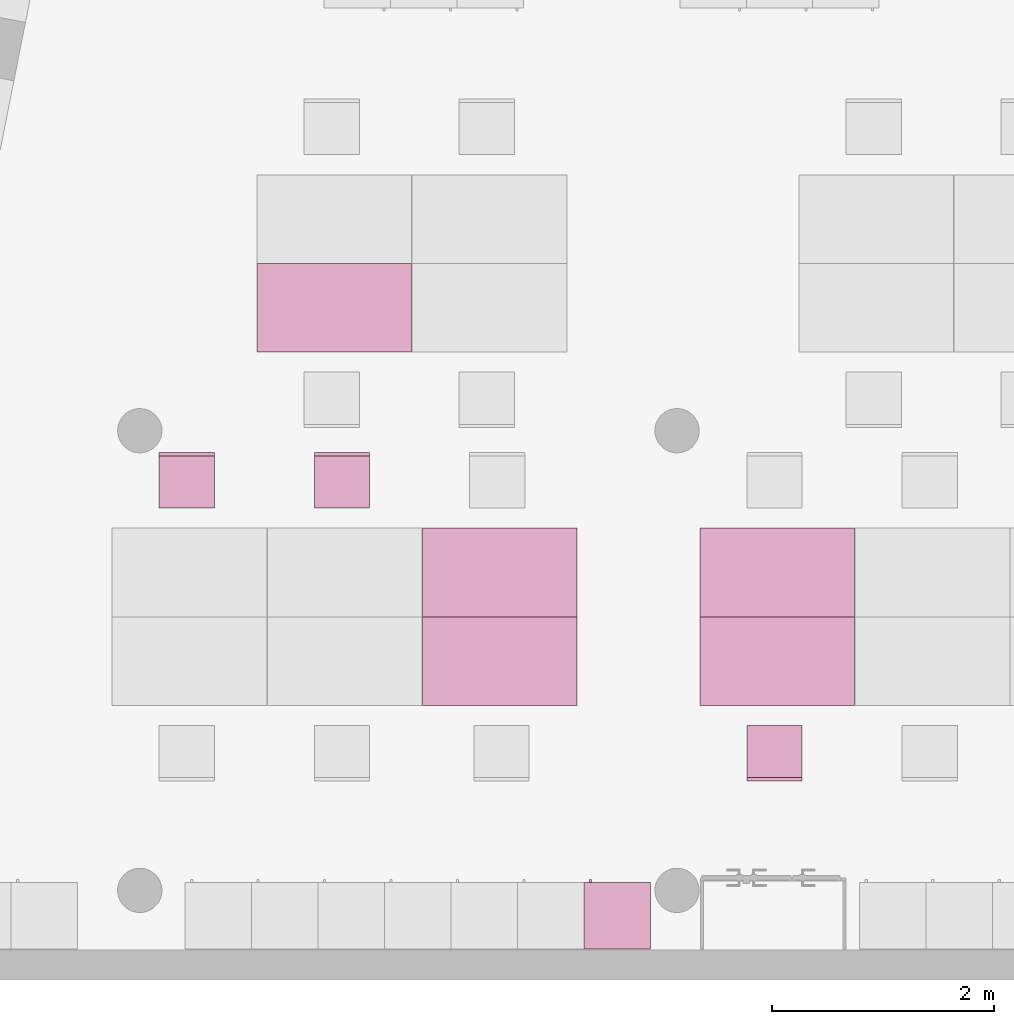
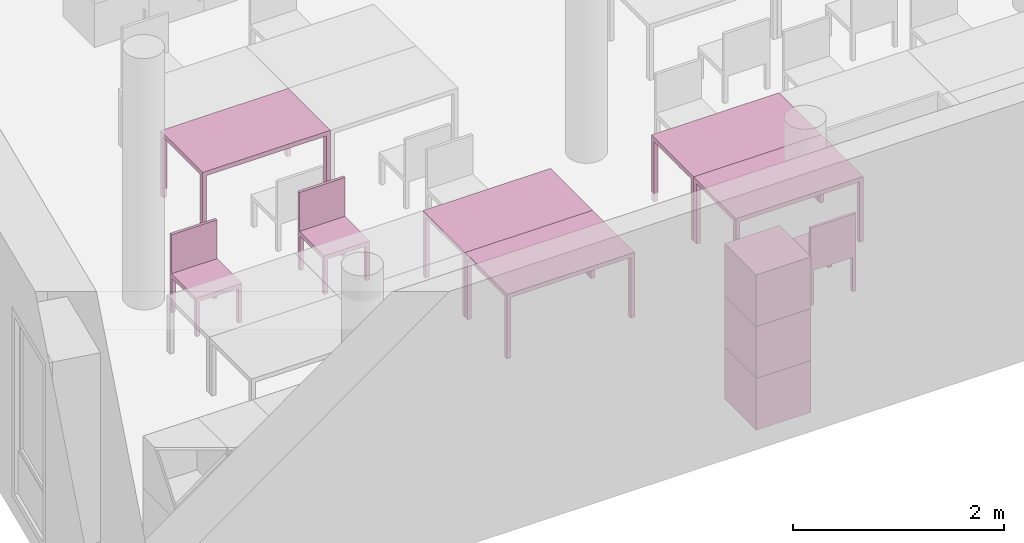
"""IFC4 building model written with IfcOpenShell, lengths in metres."""

from ifc_helpers import new_model, entity, si_unit, converted_unit, derived_unit, frame, origin, place, context, subcontext, project, spatial, faceted_brep, element, save


model = new_model("IFC4")

# Units and contexts
model_context = context("Model", 3, precision=1e-05, world=origin())
body_context = subcontext(model_context, "Body", "Model", "MODEL_VIEW")
ifc_project = project(units=[si_unit("LENGTHUNIT", "METRE"), si_unit("AREAUNIT", "SQUARE_METRE"), si_unit("VOLUMEUNIT", "CUBIC_METRE"), si_unit("MASSUNIT", "GRAM", prefix="KILO"), converted_unit("PLANEANGLEUNIT", "DEGREE", entity("IfcPlaneAngleMeasure", 0.0174532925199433), si_unit("PLANEANGLEUNIT", "RADIAN"), dimensions=[0, 0, 0, 0, 0, 0, 0]), derived_unit("THERMALTRANSMITTANCEUNIT", [(si_unit("POWERUNIT", "WATT"), 1), (si_unit("THERMODYNAMICTEMPERATUREUNIT", "KELVIN"), -1), (si_unit("LENGTHUNIT", "METRE"), -2)]), derived_unit("VOLUMETRICFLOWRATEUNIT", [(si_unit("LENGTHUNIT", "METRE"), 3), (converted_unit("TIMEUNIT", "hour", entity("IfcTimeMeasure", 3600.0), si_unit("TIMEUNIT", "SECOND"), dimensions=[0, 0, 1, 0, 0, 0, 0]), -1), (si_unit("LENGTHUNIT", "METRE"), -1)])], contexts=[model_context])

# Building, storeys
building_placement = place(None, origin())
building = spatial("IfcBuilding", under=ifc_project, at=building_placement, Name="HABITATGE PLURIFAMILIAR", CompositionType="ELEMENT")
storey_1_placement = place(building_placement, frame((0.0, 0.0, 15.28)))
storey_1 = spatial("IfcBuildingStorey", under=building, at=storey_1_placement, Name="PLANTA QUARTA", CompositionType="ELEMENT", Elevation=15.28)
storey_2_placement = place(storey_1_placement, frame((0.0, 0.0, 12.27)))
storey_2 = spatial("IfcBuildingStorey", under=storey_1, at=storey_2_placement, Name="NOU", CompositionType="PARTIAL")

# Furniture
furniture_1_placement = place(storey_2_placement, frame((403.537575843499, 15.3194598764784, -12.3699999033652)))
element("IfcFurniture", 1, at=furniture_1_placement, inside=storey_2, Name="Taula 140X80_P4", context=body_context, shape_type="Brep", body=[
    faceted_brep([(0.04375, 0.750069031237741, 0.0), (0.04375, 0.800069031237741, 0.0), (0.0, 0.800069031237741, 0.0), (0.0, 0.750069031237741, 0.0), (0.04375, 0.800069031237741, 0.7), (0.04375, 0.750069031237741, 0.7), (0.0, 0.750069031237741, 0.7), (0.0, 0.800069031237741, 0.7)], [[[0, 1, 2, 3]], [[4, 5, 6, 7]], [[1, 0, 5, 4]], [[2, 1, 4, 7]], [[3, 2, 7, 6]], [[0, 3, 6, 5]]], orient=[[False], [False], [False], [False], [False], [False]]),
    faceted_brep([(0.04375, 0.0, 0.0), (0.04375, 0.05, 0.0), (0.0, 0.05, 0.0), (0.0, 0.0, 0.0), (0.04375, 0.05, 0.7), (0.04375, 0.0, 0.7), (0.0, 0.0, 0.7), (0.0, 0.05, 0.7)], [[[0, 1, 2, 3]], [[4, 5, 6, 7]], [[1, 0, 5, 4]], [[2, 1, 4, 7]], [[3, 2, 7, 6]], [[0, 3, 6, 5]]], orient=[[False], [False], [False], [False], [False], [False]]),
    faceted_brep([(1.39732768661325, 0.0, 0.7), (1.39732768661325, 0.800069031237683, 0.7), (0.0, 0.800069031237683, 0.7), (0.0, 0.0, 0.7), (1.39732768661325, 0.800069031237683, 0.75), (1.39732768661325, 0.0, 0.75), (0.0, 0.0, 0.75), (0.0, 0.800069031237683, 0.75)], [[[0, 1, 2, 3]], [[4, 5, 6, 7]], [[1, 0, 5, 4]], [[2, 1, 4, 7]], [[3, 2, 7, 6]], [[0, 3, 6, 5]]], orient=[[False], [False], [False], [False], [False], [False]]),
    faceted_brep([(1.39732768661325, 0.750069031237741, 0.0), (1.39732768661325, 0.800069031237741, 0.0), (1.35357768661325, 0.800069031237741, 0.0), (1.35357768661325, 0.750069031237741, 0.0), (1.39732768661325, 0.800069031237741, 0.7), (1.39732768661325, 0.750069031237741, 0.7), (1.35357768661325, 0.750069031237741, 0.7), (1.35357768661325, 0.800069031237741, 0.7)], [[[0, 1, 2, 3]], [[4, 5, 6, 7]], [[1, 0, 5, 4]], [[2, 1, 4, 7]], [[3, 2, 7, 6]], [[0, 3, 6, 5]]], orient=[[False], [False], [False], [False], [False], [False]]),
    faceted_brep([(1.39732768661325, 0.0, 0.0), (1.39732768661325, 0.05, 0.0), (1.35357768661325, 0.05, 0.0), (1.35357768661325, 0.0, 0.0), (1.39732768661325, 0.05, 0.7), (1.39732768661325, 0.0, 0.7), (1.35357768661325, 0.0, 0.7), (1.35357768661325, 0.05, 0.7)], [[[0, 1, 2, 3]], [[4, 5, 6, 7]], [[1, 0, 5, 4]], [[2, 1, 4, 7]], [[3, 2, 7, 6]], [[0, 3, 6, 5]]], orient=[[False], [False], [False], [False], [False], [False]]),
])
furniture_2_placement = place(storey_2_placement, frame((403.537575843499, 16.119528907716, -12.3699999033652)))
element("IfcFurniture", 2, at=furniture_2_placement, inside=storey_2, Name="Taula 140X80_P4", context=body_context, shape_type="Brep", body=[
    faceted_brep([(0.04375, 0.05, 0.0), (0.0, 0.05, 0.0), (0.0, 0.0, 0.0), (0.04375, 0.0, 0.0), (0.04375, 0.0, 0.7), (0.0, 0.0, 0.7), (0.0, 0.05, 0.7), (0.04375, 0.05, 0.7)], [[[0, 1, 2, 3]], [[4, 5, 6, 7]], [[3, 4, 7, 0]], [[2, 5, 4, 3]], [[1, 6, 5, 2]], [[0, 7, 6, 1]]], orient=[[False], [False], [False], [False], [False], [False]]),
    faceted_brep([(0.04375, 0.800069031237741, 0.0), (0.0, 0.800069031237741, 0.0), (0.0, 0.750069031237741, 0.0), (0.04375, 0.750069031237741, 0.0), (0.04375, 0.750069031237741, 0.7), (0.0, 0.750069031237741, 0.7), (0.0, 0.800069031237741, 0.7), (0.04375, 0.800069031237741, 0.7)], [[[0, 1, 2, 3]], [[4, 5, 6, 7]], [[3, 4, 7, 0]], [[2, 5, 4, 3]], [[1, 6, 5, 2]], [[0, 7, 6, 1]]], orient=[[False], [False], [False], [False], [False], [False]]),
    faceted_brep([(1.39732768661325, 0.800069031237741, 0.7), (0.0, 0.800069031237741, 0.7), (0.0, 0.0, 0.7), (1.39732768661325, 0.0, 0.7), (1.39732768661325, 0.0, 0.75), (0.0, 0.0, 0.75), (0.0, 0.800069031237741, 0.75), (1.39732768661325, 0.800069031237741, 0.75)], [[[0, 1, 2, 3]], [[4, 5, 6, 7]], [[3, 4, 7, 0]], [[2, 5, 4, 3]], [[1, 6, 5, 2]], [[0, 7, 6, 1]]], orient=[[False], [False], [False], [False], [False], [False]]),
    faceted_brep([(1.39732768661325, 0.05, 0.0), (1.35357768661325, 0.05, 0.0), (1.35357768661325, 0.0, 0.0), (1.39732768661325, 0.0, 0.0), (1.39732768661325, 0.0, 0.7), (1.35357768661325, 0.0, 0.7), (1.35357768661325, 0.05, 0.7), (1.39732768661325, 0.05, 0.7)], [[[0, 1, 2, 3]], [[4, 5, 6, 7]], [[3, 4, 7, 0]], [[2, 5, 4, 3]], [[1, 6, 5, 2]], [[0, 7, 6, 1]]], orient=[[False], [False], [False], [False], [False], [False]]),
    faceted_brep([(1.39732768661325, 0.800069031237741, 0.0), (1.35357768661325, 0.800069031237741, 0.0), (1.35357768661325, 0.750069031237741, 0.0), (1.39732768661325, 0.750069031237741, 0.0), (1.39732768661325, 0.750069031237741, 0.7), (1.35357768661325, 0.750069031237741, 0.7), (1.35357768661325, 0.800069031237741, 0.7), (1.39732768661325, 0.800069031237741, 0.7)], [[[0, 1, 2, 3]], [[4, 5, 6, 7]], [[3, 4, 7, 0]], [[2, 5, 4, 3]], [[1, 6, 5, 2]], [[0, 7, 6, 1]]], orient=[[False], [False], [False], [False], [False], [False]]),
])
furniture_3_placement = place(storey_2_placement, frame((406.042292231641, 15.3194598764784, -12.3699999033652)))
element("IfcFurniture", 3, at=furniture_3_placement, inside=storey_2, Name="Taula 140X80_P4", context=body_context, shape_type="Brep", body=[
    faceted_brep([(0.04375, 0.750069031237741, 0.0), (0.04375, 0.800069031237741, 0.0), (0.0, 0.800069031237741, 0.0), (0.0, 0.750069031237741, 0.0), (0.04375, 0.800069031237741, 0.7), (0.04375, 0.750069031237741, 0.7), (0.0, 0.750069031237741, 0.7), (0.0, 0.800069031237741, 0.7)], [[[0, 1, 2, 3]], [[4, 5, 6, 7]], [[1, 0, 5, 4]], [[2, 1, 4, 7]], [[3, 2, 7, 6]], [[0, 3, 6, 5]]], orient=[[False], [False], [False], [False], [False], [False]]),
    faceted_brep([(0.04375, 0.0, 0.0), (0.04375, 0.05, 0.0), (0.0, 0.05, 0.0), (0.0, 0.0, 0.0), (0.04375, 0.05, 0.7), (0.04375, 0.0, 0.7), (0.0, 0.0, 0.7), (0.0, 0.05, 0.7)], [[[0, 1, 2, 3]], [[4, 5, 6, 7]], [[1, 0, 5, 4]], [[2, 1, 4, 7]], [[3, 2, 7, 6]], [[0, 3, 6, 5]]], orient=[[False], [False], [False], [False], [False], [False]]),
    faceted_brep([(1.39732768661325, 0.0, 0.7), (1.39732768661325, 0.800069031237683, 0.7), (0.0, 0.800069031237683, 0.7), (0.0, 0.0, 0.7), (1.39732768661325, 0.800069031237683, 0.75), (1.39732768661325, 0.0, 0.75), (0.0, 0.0, 0.75), (0.0, 0.800069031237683, 0.75)], [[[0, 1, 2, 3]], [[4, 5, 6, 7]], [[1, 0, 5, 4]], [[2, 1, 4, 7]], [[3, 2, 7, 6]], [[0, 3, 6, 5]]], orient=[[False], [False], [False], [False], [False], [False]]),
    faceted_brep([(1.39732768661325, 0.750069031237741, 0.0), (1.39732768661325, 0.800069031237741, 0.0), (1.35357768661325, 0.800069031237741, 0.0), (1.35357768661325, 0.750069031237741, 0.0), (1.39732768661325, 0.800069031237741, 0.7), (1.39732768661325, 0.750069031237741, 0.7), (1.35357768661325, 0.750069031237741, 0.7), (1.35357768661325, 0.800069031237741, 0.7)], [[[0, 1, 2, 3]], [[4, 5, 6, 7]], [[1, 0, 5, 4]], [[2, 1, 4, 7]], [[3, 2, 7, 6]], [[0, 3, 6, 5]]], orient=[[False], [False], [False], [False], [False], [False]]),
    faceted_brep([(1.39732768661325, 0.0, 0.0), (1.39732768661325, 0.05, 0.0), (1.35357768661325, 0.05, 0.0), (1.35357768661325, 0.0, 0.0), (1.39732768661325, 0.05, 0.7), (1.39732768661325, 0.0, 0.7), (1.35357768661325, 0.0, 0.7), (1.35357768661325, 0.05, 0.7)], [[[0, 1, 2, 3]], [[4, 5, 6, 7]], [[1, 0, 5, 4]], [[2, 1, 4, 7]], [[3, 2, 7, 6]], [[0, 3, 6, 5]]], orient=[[False], [False], [False], [False], [False], [False]]),
])
furniture_4_placement = place(storey_2_placement, frame((406.042292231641, 16.1195289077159, -12.3699999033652)))
element("IfcFurniture", 4, at=furniture_4_placement, inside=storey_2, Name="Taula 140X80_P4", context=body_context, shape_type="Brep", body=[
    faceted_brep([(0.04375, 0.05, 0.0), (0.0, 0.05, 0.0), (0.0, 0.0, 0.0), (0.04375, 0.0, 0.0), (0.04375, 0.0, 0.7), (0.0, 0.0, 0.7), (0.0, 0.05, 0.7), (0.04375, 0.05, 0.7)], [[[0, 1, 2, 3]], [[4, 5, 6, 7]], [[3, 4, 7, 0]], [[2, 5, 4, 3]], [[1, 6, 5, 2]], [[0, 7, 6, 1]]], orient=[[False], [False], [False], [False], [False], [False]]),
    faceted_brep([(0.04375, 0.800069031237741, 0.0), (0.0, 0.800069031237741, 0.0), (0.0, 0.750069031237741, 0.0), (0.04375, 0.750069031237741, 0.0), (0.04375, 0.750069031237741, 0.7), (0.0, 0.750069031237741, 0.7), (0.0, 0.800069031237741, 0.7), (0.04375, 0.800069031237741, 0.7)], [[[0, 1, 2, 3]], [[4, 5, 6, 7]], [[3, 4, 7, 0]], [[2, 5, 4, 3]], [[1, 6, 5, 2]], [[0, 7, 6, 1]]], orient=[[False], [False], [False], [False], [False], [False]]),
    faceted_brep([(1.39732768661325, 0.800069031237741, 0.7), (0.0, 0.800069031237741, 0.7), (0.0, 0.0, 0.7), (1.39732768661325, 0.0, 0.7), (1.39732768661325, 0.0, 0.75), (0.0, 0.0, 0.75), (0.0, 0.800069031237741, 0.75), (1.39732768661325, 0.800069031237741, 0.75)], [[[0, 1, 2, 3]], [[4, 5, 6, 7]], [[3, 4, 7, 0]], [[2, 5, 4, 3]], [[1, 6, 5, 2]], [[0, 7, 6, 1]]], orient=[[False], [False], [False], [False], [False], [False]]),
    faceted_brep([(1.39732768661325, 0.05, 0.0), (1.35357768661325, 0.05, 0.0), (1.35357768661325, 0.0, 0.0), (1.39732768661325, 0.0, 0.0), (1.39732768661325, 0.0, 0.7), (1.35357768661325, 0.0, 0.7), (1.35357768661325, 0.05, 0.7), (1.39732768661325, 0.05, 0.7)], [[[0, 1, 2, 3]], [[4, 5, 6, 7]], [[3, 4, 7, 0]], [[2, 5, 4, 3]], [[1, 6, 5, 2]], [[0, 7, 6, 1]]], orient=[[False], [False], [False], [False], [False], [False]]),
    faceted_brep([(1.39732768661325, 0.800069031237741, 0.0), (1.35357768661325, 0.800069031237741, 0.0), (1.35357768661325, 0.750069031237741, 0.0), (1.39732768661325, 0.750069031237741, 0.0), (1.39732768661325, 0.750069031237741, 0.7), (1.35357768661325, 0.750069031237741, 0.7), (1.35357768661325, 0.800069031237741, 0.7), (1.39732768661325, 0.800069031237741, 0.7)], [[[0, 1, 2, 3]], [[4, 5, 6, 7]], [[3, 4, 7, 0]], [[2, 5, 4, 3]], [[1, 6, 5, 2]], [[0, 7, 6, 1]]], orient=[[False], [False], [False], [False], [False], [False]]),
])
furniture_5_placement = place(storey_2_placement, frame((402.04459977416, 18.5099524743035, -12.3699999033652)))
element("IfcFurniture", 5, at=furniture_5_placement, inside=storey_2, Name="Taula 140X80_P4", context=body_context, shape_type="Brep", body=[
    faceted_brep([(0.04375, 0.750069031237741, 0.0), (0.04375, 0.800069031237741, 0.0), (0.0, 0.800069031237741, 0.0), (0.0, 0.750069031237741, 0.0), (0.04375, 0.800069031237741, 0.7), (0.04375, 0.750069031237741, 0.7), (0.0, 0.750069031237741, 0.7), (0.0, 0.800069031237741, 0.7)], [[[0, 1, 2, 3]], [[4, 5, 6, 7]], [[1, 0, 5, 4]], [[2, 1, 4, 7]], [[3, 2, 7, 6]], [[0, 3, 6, 5]]], orient=[[False], [False], [False], [False], [False], [False]]),
    faceted_brep([(0.04375, 0.0, 0.0), (0.04375, 0.05, 0.0), (0.0, 0.05, 0.0), (0.0, 0.0, 0.0), (0.04375, 0.05, 0.7), (0.04375, 0.0, 0.7), (0.0, 0.0, 0.7), (0.0, 0.05, 0.7)], [[[0, 1, 2, 3]], [[4, 5, 6, 7]], [[1, 0, 5, 4]], [[2, 1, 4, 7]], [[3, 2, 7, 6]], [[0, 3, 6, 5]]], orient=[[False], [False], [False], [False], [False], [False]]),
    faceted_brep([(1.39732768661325, 0.0, 0.7), (1.39732768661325, 0.800069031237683, 0.7), (0.0, 0.800069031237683, 0.7), (0.0, 0.0, 0.7), (1.39732768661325, 0.800069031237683, 0.75), (1.39732768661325, 0.0, 0.75), (0.0, 0.0, 0.75), (0.0, 0.800069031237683, 0.75)], [[[0, 1, 2, 3]], [[4, 5, 6, 7]], [[1, 0, 5, 4]], [[2, 1, 4, 7]], [[3, 2, 7, 6]], [[0, 3, 6, 5]]], orient=[[False], [False], [False], [False], [False], [False]]),
    faceted_brep([(1.39732768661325, 0.750069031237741, 0.0), (1.39732768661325, 0.800069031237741, 0.0), (1.35357768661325, 0.800069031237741, 0.0), (1.35357768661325, 0.750069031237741, 0.0), (1.39732768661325, 0.800069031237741, 0.7), (1.39732768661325, 0.750069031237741, 0.7), (1.35357768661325, 0.750069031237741, 0.7), (1.35357768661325, 0.800069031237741, 0.7)], [[[0, 1, 2, 3]], [[4, 5, 6, 7]], [[1, 0, 5, 4]], [[2, 1, 4, 7]], [[3, 2, 7, 6]], [[0, 3, 6, 5]]], orient=[[False], [False], [False], [False], [False], [False]]),
    faceted_brep([(1.39732768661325, 0.0, 0.0), (1.39732768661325, 0.05, 0.0), (1.35357768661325, 0.05, 0.0), (1.35357768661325, 0.0, 0.0), (1.39732768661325, 0.05, 0.7), (1.39732768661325, 0.0, 0.7), (1.35357768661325, 0.0, 0.7), (1.35357768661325, 0.05, 0.7)], [[[0, 1, 2, 3]], [[4, 5, 6, 7]], [[1, 0, 5, 4]], [[2, 1, 4, 7]], [[3, 2, 7, 6]], [[0, 3, 6, 5]]], orient=[[False], [False], [False], [False], [False], [False]]),
])
furniture_6_placement = place(storey_2_placement, frame((404.99527037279, 13.1194598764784, -12.37)))
element("IfcFurniture", 6, at=furniture_6_placement, inside=storey_2, Name="Armai 60x60x60_P4", context=body_context, shape_type="Brep", body=[
    faceted_brep([(0.0, 0.6, 0.02), (0.0, 0.6, 0.0), (0.6, 0.6, 0.0), (0.6, 0.6, 0.02), (0.6, 0.0, 0.0), (0.6, 0.0, 0.02), (0.0, 0.0, 0.0), (0.0, 0.0, 0.02)], [[[0, 1, 2, 3]], [[3, 2, 4, 5]], [[5, 4, 6, 7]], [[7, 6, 1, 0]], [[0, 3, 5, 7]], [[1, 6, 4, 2]]], orient=[[False], [False], [False], [False], [False], [False]]),
    faceted_brep([(0.580000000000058, 0.0, 0.58), (0.580000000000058, 0.0200000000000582, 0.58), (0.580000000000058, 0.0200000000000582, 0.02), (0.580000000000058, 0.0, 0.02), (0.0200000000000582, 0.0200000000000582, 0.02), (0.0200000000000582, 0.0, 0.02), (0.0200000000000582, 0.0200000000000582, 0.58), (0.0200000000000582, 0.0, 0.58)], [[[0, 1, 2, 3]], [[3, 2, 4, 5]], [[5, 4, 6, 7]], [[7, 6, 1, 0]], [[0, 3, 5, 7]], [[1, 6, 4, 2]]], orient=[[False], [False], [False], [False], [False], [False]]),
    faceted_brep([(0.0200000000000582, 0.6, 0.58), (0.0, 0.6, 0.58), (0.0, 0.6, 0.02), (0.0200000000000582, 0.6, 0.02), (0.0, 0.0, 0.02), (0.0200000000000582, 0.0, 0.02), (0.0, 0.0, 0.58), (0.0200000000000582, 0.0, 0.58)], [[[0, 1, 2, 3]], [[3, 2, 4, 5]], [[5, 4, 6, 7]], [[7, 6, 1, 0]], [[0, 3, 5, 7]], [[1, 6, 4, 2]]], orient=[[False], [False], [False], [False], [False], [False]]),
    faceted_brep([(0.0, 0.58, 0.58), (0.0, 0.6, 0.58), (0.0, 0.6, 0.02), (0.0, 0.58, 0.02), (0.02, 0.6, 0.02), (0.02, 0.58, 0.02), (0.02, 0.6, 0.58), (0.02, 0.58, 0.58)], [[[0, 1, 2, 3]], [[3, 2, 4, 5]], [[5, 4, 6, 7]], [[7, 6, 1, 0]], [[0, 3, 5, 7]], [[1, 6, 4, 2]]], orient=[[False], [False], [False], [False], [False], [False]]),
    faceted_brep([(0.6, 0.6, 0.58), (0.58, 0.6, 0.58), (0.58, 0.6, 0.02), (0.6, 0.6, 0.02), (0.58, 0.0, 0.02), (0.6, 0.0, 0.02), (0.58, 0.0, 0.58), (0.6, 0.0, 0.58)], [[[0, 1, 2, 3]], [[3, 2, 4, 5]], [[5, 4, 6, 7]], [[7, 6, 1, 0]], [[0, 3, 5, 7]], [[1, 6, 4, 2]]], orient=[[False], [False], [False], [False], [False], [False]]),
    faceted_brep([(0.0, 0.600000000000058, 0.6), (0.0, 0.600000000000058, 0.58), (0.600000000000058, 0.600000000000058, 0.58), (0.600000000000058, 0.600000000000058, 0.6), (0.600000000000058, 0.0, 0.58), (0.600000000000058, 0.0, 0.6), (0.0, 0.0, 0.58), (0.0, 0.0, 0.6)], [[[0, 1, 2, 3]], [[3, 2, 4, 5]], [[5, 4, 6, 7]], [[7, 6, 1, 0]], [[0, 3, 5, 7]], [[1, 6, 4, 2]]], orient=[[False], [False], [False], [False], [False], [False]]),
    faceted_brep([(0.580000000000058, 0.580000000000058, 0.58), (0.580000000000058, 0.600000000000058, 0.58), (0.580000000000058, 0.600000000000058, 0.02), (0.580000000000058, 0.580000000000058, 0.02), (0.02, 0.600000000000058, 0.02), (0.02, 0.580000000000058, 0.02), (0.02, 0.600000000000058, 0.58), (0.02, 0.580000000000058, 0.58)], [[[0, 1, 2, 3]], [[3, 2, 4, 5]], [[5, 4, 6, 7]], [[7, 6, 1, 0]], [[0, 3, 5, 7]], [[1, 6, 4, 2]]], orient=[[False], [False], [False], [False], [False], [False]]),
    faceted_brep([(0.0700000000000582, 0.600000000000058, 0.358064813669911), (0.0700000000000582, 0.630000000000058, 0.358064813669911), (0.0700000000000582, 0.630000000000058, 0.258064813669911), (0.0700000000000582, 0.600000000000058, 0.258064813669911), (0.0500000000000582, 0.630000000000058, 0.258064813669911), (0.0500000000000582, 0.600000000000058, 0.258064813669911), (0.0500000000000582, 0.630000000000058, 0.358064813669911), (0.0500000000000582, 0.600000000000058, 0.358064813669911)], [[[0, 1, 2, 3]], [[3, 2, 4, 5]], [[5, 4, 6, 7]], [[7, 6, 1, 0]], [[0, 3, 5, 7]], [[1, 6, 4, 2]]], orient=[[False], [False], [False], [False], [False], [False]]),
])
furniture_7_placement = place(storey_2_placement, frame((404.99527037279, 13.1194598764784, -11.77)))
element("IfcFurniture", 7, at=furniture_7_placement, inside=storey_2, Name="Armai 60x60x60_P4", context=body_context, shape_type="Brep", body=[
    faceted_brep([(0.0, 0.6, 0.02), (0.0, 0.6, 0.0), (0.6, 0.6, 0.0), (0.6, 0.6, 0.02), (0.6, 0.0, 0.0), (0.6, 0.0, 0.02), (0.0, 0.0, 0.0), (0.0, 0.0, 0.02)], [[[0, 1, 2, 3]], [[3, 2, 4, 5]], [[5, 4, 6, 7]], [[7, 6, 1, 0]], [[0, 3, 5, 7]], [[1, 6, 4, 2]]], orient=[[False], [False], [False], [False], [False], [False]]),
    faceted_brep([(0.580000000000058, 0.0, 0.58), (0.580000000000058, 0.0200000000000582, 0.58), (0.580000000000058, 0.0200000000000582, 0.02), (0.580000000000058, 0.0, 0.02), (0.0200000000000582, 0.0200000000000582, 0.02), (0.0200000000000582, 0.0, 0.02), (0.0200000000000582, 0.0200000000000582, 0.58), (0.0200000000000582, 0.0, 0.58)], [[[0, 1, 2, 3]], [[3, 2, 4, 5]], [[5, 4, 6, 7]], [[7, 6, 1, 0]], [[0, 3, 5, 7]], [[1, 6, 4, 2]]], orient=[[False], [False], [False], [False], [False], [False]]),
    faceted_brep([(0.0200000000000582, 0.6, 0.58), (0.0, 0.6, 0.58), (0.0, 0.6, 0.02), (0.0200000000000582, 0.6, 0.02), (0.0, 0.0, 0.02), (0.0200000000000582, 0.0, 0.02), (0.0, 0.0, 0.58), (0.0200000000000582, 0.0, 0.58)], [[[0, 1, 2, 3]], [[3, 2, 4, 5]], [[5, 4, 6, 7]], [[7, 6, 1, 0]], [[0, 3, 5, 7]], [[1, 6, 4, 2]]], orient=[[False], [False], [False], [False], [False], [False]]),
    faceted_brep([(0.0, 0.58, 0.58), (0.0, 0.6, 0.58), (0.0, 0.6, 0.02), (0.0, 0.58, 0.02), (0.02, 0.6, 0.02), (0.02, 0.58, 0.02), (0.02, 0.6, 0.58), (0.02, 0.58, 0.58)], [[[0, 1, 2, 3]], [[3, 2, 4, 5]], [[5, 4, 6, 7]], [[7, 6, 1, 0]], [[0, 3, 5, 7]], [[1, 6, 4, 2]]], orient=[[False], [False], [False], [False], [False], [False]]),
    faceted_brep([(0.6, 0.6, 0.58), (0.58, 0.6, 0.58), (0.58, 0.6, 0.02), (0.6, 0.6, 0.02), (0.58, 0.0, 0.02), (0.6, 0.0, 0.02), (0.58, 0.0, 0.58), (0.6, 0.0, 0.58)], [[[0, 1, 2, 3]], [[3, 2, 4, 5]], [[5, 4, 6, 7]], [[7, 6, 1, 0]], [[0, 3, 5, 7]], [[1, 6, 4, 2]]], orient=[[False], [False], [False], [False], [False], [False]]),
    faceted_brep([(0.0, 0.600000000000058, 0.6), (0.0, 0.600000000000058, 0.58), (0.600000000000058, 0.600000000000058, 0.58), (0.600000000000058, 0.600000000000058, 0.6), (0.600000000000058, 0.0, 0.58), (0.600000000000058, 0.0, 0.6), (0.0, 0.0, 0.58), (0.0, 0.0, 0.6)], [[[0, 1, 2, 3]], [[3, 2, 4, 5]], [[5, 4, 6, 7]], [[7, 6, 1, 0]], [[0, 3, 5, 7]], [[1, 6, 4, 2]]], orient=[[False], [False], [False], [False], [False], [False]]),
    faceted_brep([(0.580000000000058, 0.580000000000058, 0.58), (0.580000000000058, 0.600000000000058, 0.58), (0.580000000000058, 0.600000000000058, 0.02), (0.580000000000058, 0.580000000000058, 0.02), (0.02, 0.600000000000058, 0.02), (0.02, 0.580000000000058, 0.02), (0.02, 0.600000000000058, 0.58), (0.02, 0.580000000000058, 0.58)], [[[0, 1, 2, 3]], [[3, 2, 4, 5]], [[5, 4, 6, 7]], [[7, 6, 1, 0]], [[0, 3, 5, 7]], [[1, 6, 4, 2]]], orient=[[False], [False], [False], [False], [False], [False]]),
    faceted_brep([(0.0700000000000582, 0.600000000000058, 0.358064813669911), (0.0700000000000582, 0.630000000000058, 0.358064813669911), (0.0700000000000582, 0.630000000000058, 0.258064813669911), (0.0700000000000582, 0.600000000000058, 0.258064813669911), (0.0500000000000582, 0.630000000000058, 0.258064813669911), (0.0500000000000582, 0.600000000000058, 0.258064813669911), (0.0500000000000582, 0.630000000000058, 0.358064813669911), (0.0500000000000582, 0.600000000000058, 0.358064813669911)], [[[0, 1, 2, 3]], [[3, 2, 4, 5]], [[5, 4, 6, 7]], [[7, 6, 1, 0]], [[0, 3, 5, 7]], [[1, 6, 4, 2]]], orient=[[False], [False], [False], [False], [False], [False]]),
])
furniture_8_placement = place(storey_2_placement, frame((404.99527037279, 13.1194598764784, -11.17)))
element("IfcFurniture", 8, at=furniture_8_placement, inside=storey_2, Name="Armai 60x60x60_P4", context=body_context, shape_type="Brep", body=[
    faceted_brep([(0.0, 0.6, 0.02), (0.0, 0.6, 0.0), (0.6, 0.6, 0.0), (0.6, 0.6, 0.02), (0.6, 0.0, 0.0), (0.6, 0.0, 0.02), (0.0, 0.0, 0.0), (0.0, 0.0, 0.02)], [[[0, 1, 2, 3]], [[3, 2, 4, 5]], [[5, 4, 6, 7]], [[7, 6, 1, 0]], [[0, 3, 5, 7]], [[1, 6, 4, 2]]], orient=[[False], [False], [False], [False], [False], [False]]),
    faceted_brep([(0.580000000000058, 0.0, 0.58), (0.580000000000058, 0.0200000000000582, 0.58), (0.580000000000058, 0.0200000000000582, 0.02), (0.580000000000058, 0.0, 0.02), (0.0200000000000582, 0.0200000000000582, 0.02), (0.0200000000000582, 0.0, 0.02), (0.0200000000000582, 0.0200000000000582, 0.58), (0.0200000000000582, 0.0, 0.58)], [[[0, 1, 2, 3]], [[3, 2, 4, 5]], [[5, 4, 6, 7]], [[7, 6, 1, 0]], [[0, 3, 5, 7]], [[1, 6, 4, 2]]], orient=[[False], [False], [False], [False], [False], [False]]),
    faceted_brep([(0.0200000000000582, 0.6, 0.58), (0.0, 0.6, 0.58), (0.0, 0.6, 0.02), (0.0200000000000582, 0.6, 0.02), (0.0, 0.0, 0.02), (0.0200000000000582, 0.0, 0.02), (0.0, 0.0, 0.58), (0.0200000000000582, 0.0, 0.58)], [[[0, 1, 2, 3]], [[3, 2, 4, 5]], [[5, 4, 6, 7]], [[7, 6, 1, 0]], [[0, 3, 5, 7]], [[1, 6, 4, 2]]], orient=[[False], [False], [False], [False], [False], [False]]),
    faceted_brep([(0.0, 0.58, 0.58), (0.0, 0.6, 0.58), (0.0, 0.6, 0.02), (0.0, 0.58, 0.02), (0.02, 0.6, 0.02), (0.02, 0.58, 0.02), (0.02, 0.6, 0.58), (0.02, 0.58, 0.58)], [[[0, 1, 2, 3]], [[3, 2, 4, 5]], [[5, 4, 6, 7]], [[7, 6, 1, 0]], [[0, 3, 5, 7]], [[1, 6, 4, 2]]], orient=[[False], [False], [False], [False], [False], [False]]),
    faceted_brep([(0.6, 0.6, 0.58), (0.58, 0.6, 0.58), (0.58, 0.6, 0.02), (0.6, 0.6, 0.02), (0.58, 0.0, 0.02), (0.6, 0.0, 0.02), (0.58, 0.0, 0.58), (0.6, 0.0, 0.58)], [[[0, 1, 2, 3]], [[3, 2, 4, 5]], [[5, 4, 6, 7]], [[7, 6, 1, 0]], [[0, 3, 5, 7]], [[1, 6, 4, 2]]], orient=[[False], [False], [False], [False], [False], [False]]),
    faceted_brep([(0.0, 0.600000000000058, 0.6), (0.0, 0.600000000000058, 0.58), (0.600000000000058, 0.600000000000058, 0.58), (0.600000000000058, 0.600000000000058, 0.6), (0.600000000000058, 0.0, 0.58), (0.600000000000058, 0.0, 0.6), (0.0, 0.0, 0.58), (0.0, 0.0, 0.6)], [[[0, 1, 2, 3]], [[3, 2, 4, 5]], [[5, 4, 6, 7]], [[7, 6, 1, 0]], [[0, 3, 5, 7]], [[1, 6, 4, 2]]], orient=[[False], [False], [False], [False], [False], [False]]),
    faceted_brep([(0.580000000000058, 0.580000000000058, 0.58), (0.580000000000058, 0.600000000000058, 0.58), (0.580000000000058, 0.600000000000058, 0.02), (0.580000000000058, 0.580000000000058, 0.02), (0.02, 0.600000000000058, 0.02), (0.02, 0.580000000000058, 0.02), (0.02, 0.600000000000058, 0.58), (0.02, 0.580000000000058, 0.58)], [[[0, 1, 2, 3]], [[3, 2, 4, 5]], [[5, 4, 6, 7]], [[7, 6, 1, 0]], [[0, 3, 5, 7]], [[1, 6, 4, 2]]], orient=[[False], [False], [False], [False], [False], [False]]),
    faceted_brep([(0.0700000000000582, 0.600000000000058, 0.358064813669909), (0.0700000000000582, 0.630000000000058, 0.358064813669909), (0.0700000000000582, 0.630000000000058, 0.258064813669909), (0.0700000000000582, 0.600000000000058, 0.258064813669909), (0.0500000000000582, 0.630000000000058, 0.258064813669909), (0.0500000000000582, 0.600000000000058, 0.258064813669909), (0.0500000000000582, 0.630000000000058, 0.358064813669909), (0.0500000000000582, 0.600000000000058, 0.358064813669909)], [[[0, 1, 2, 3]], [[3, 2, 4, 5]], [[5, 4, 6, 7]], [[7, 6, 1, 0]], [[0, 3, 5, 7]], [[1, 6, 4, 2]]], orient=[[False], [False], [False], [False], [False], [False]]),
])
furniture_9_placement = place(storey_2_placement, frame((402.562266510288, 17.1018108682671, -12.3640610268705)))
element("IfcFurniture", 9, at=furniture_9_placement, inside=storey_2, Name="Cadira d'Oficina_P4", context=body_context, shape_type="Brep", body=[
    faceted_brep([(0.5, 0.0, 0.399999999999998), (0.5, 0.500000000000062, 0.399999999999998), (0.0, 0.5, 0.399999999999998), (0.0, 0.0, 0.399999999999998), (0.5, 0.500000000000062, 0.449999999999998), (0.5, 0.0, 0.449999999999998), (0.0, 0.0, 0.449999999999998), (0.0, 0.5, 0.449999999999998)], [[[0, 1, 2, 3]], [[4, 5, 6, 7]], [[1, 0, 5, 4]], [[2, 1, 4, 7]], [[3, 2, 7, 6]], [[0, 3, 6, 5]]], orient=[[False], [False], [False], [False], [False], [False]]),
    faceted_brep([(0.0, 0.46, 0.0), (0.04, 0.46, 0.0), (0.04, 0.5, 0.0), (0.0, 0.5, 0.0), (0.04, 0.46, 0.4), (0.0, 0.46, 0.4), (0.0, 0.5, 0.4), (0.04, 0.5, 0.4)], [[[0, 1, 2, 3]], [[4, 5, 6, 7]], [[1, 0, 5, 4]], [[2, 1, 4, 7]], [[3, 2, 7, 6]], [[0, 3, 6, 5]]], orient=[[False], [False], [False], [False], [False], [False]]),
    faceted_brep([(0.0, 0.0, 0.0), (0.04, 0.0, 0.0), (0.04, 0.04, 0.0), (0.0, 0.04, 0.0), (0.04, 0.0, 0.4), (0.0, 0.0, 0.4), (0.0, 0.04, 0.4), (0.04, 0.04, 0.4)], [[[0, 1, 2, 3]], [[4, 5, 6, 7]], [[1, 0, 5, 4]], [[2, 1, 4, 7]], [[3, 2, 7, 6]], [[0, 3, 6, 5]]], orient=[[False], [False], [False], [False], [False], [False]]),
    faceted_brep([(0.46, 0.460000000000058, 0.0), (0.5, 0.460000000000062, 0.0), (0.5, 0.500000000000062, 0.0), (0.46, 0.500000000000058, 0.0), (0.5, 0.460000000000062, 0.4), (0.46, 0.460000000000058, 0.4), (0.46, 0.500000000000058, 0.4), (0.5, 0.500000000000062, 0.4)], [[[0, 1, 2, 3]], [[4, 5, 6, 7]], [[1, 0, 5, 4]], [[2, 1, 4, 7]], [[3, 2, 7, 6]], [[0, 3, 6, 5]]], orient=[[False], [False], [False], [False], [False], [False]]),
    faceted_brep([(0.46, 0.0, 0.0), (0.5, 0.0, 0.0), (0.5, 0.0400000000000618, 0.0), (0.46, 0.0400000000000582, 0.0), (0.5, 0.0, 0.4), (0.46, 0.0, 0.4), (0.46, 0.0400000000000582, 0.4), (0.5, 0.0400000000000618, 0.4)], [[[0, 1, 2, 3]], [[4, 5, 6, 7]], [[1, 0, 5, 4]], [[2, 1, 4, 7]], [[3, 2, 7, 6]], [[0, 3, 6, 5]]], orient=[[False], [False], [False], [False], [False], [False]]),
    faceted_brep([(0.0, 0.47, 0.45), (0.5, 0.470000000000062, 0.45), (0.5, 0.500000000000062, 0.45), (0.0, 0.5, 0.45), (0.5, 0.470000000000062, 0.9), (0.0, 0.47, 0.9), (0.0, 0.5, 0.9), (0.5, 0.500000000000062, 0.9)], [[[0, 1, 2, 3]], [[4, 5, 6, 7]], [[1, 0, 5, 4]], [[2, 1, 4, 7]], [[3, 2, 7, 6]], [[0, 3, 6, 5]]], orient=[[False], [False], [False], [False], [False], [False]]),
])
furniture_10_placement = place(storey_2_placement, frame((401.161087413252, 17.1018108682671, -12.3640610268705)))
element("IfcFurniture", 10, at=furniture_10_placement, inside=storey_2, Name="Cadira d'Oficina_P4", context=body_context, shape_type="Brep", body=[
    faceted_brep([(0.5, 0.0, 0.399999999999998), (0.5, 0.500000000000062, 0.399999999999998), (0.0, 0.5, 0.399999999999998), (0.0, 0.0, 0.399999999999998), (0.5, 0.500000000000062, 0.449999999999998), (0.5, 0.0, 0.449999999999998), (0.0, 0.0, 0.449999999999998), (0.0, 0.5, 0.449999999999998)], [[[0, 1, 2, 3]], [[4, 5, 6, 7]], [[1, 0, 5, 4]], [[2, 1, 4, 7]], [[3, 2, 7, 6]], [[0, 3, 6, 5]]], orient=[[False], [False], [False], [False], [False], [False]]),
    faceted_brep([(0.0, 0.46, 0.0), (0.04, 0.46, 0.0), (0.04, 0.5, 0.0), (0.0, 0.5, 0.0), (0.04, 0.46, 0.4), (0.0, 0.46, 0.4), (0.0, 0.5, 0.4), (0.04, 0.5, 0.4)], [[[0, 1, 2, 3]], [[4, 5, 6, 7]], [[1, 0, 5, 4]], [[2, 1, 4, 7]], [[3, 2, 7, 6]], [[0, 3, 6, 5]]], orient=[[False], [False], [False], [False], [False], [False]]),
    faceted_brep([(0.0, 0.0, 0.0), (0.04, 0.0, 0.0), (0.04, 0.04, 0.0), (0.0, 0.04, 0.0), (0.04, 0.0, 0.4), (0.0, 0.0, 0.4), (0.0, 0.04, 0.4), (0.04, 0.04, 0.4)], [[[0, 1, 2, 3]], [[4, 5, 6, 7]], [[1, 0, 5, 4]], [[2, 1, 4, 7]], [[3, 2, 7, 6]], [[0, 3, 6, 5]]], orient=[[False], [False], [False], [False], [False], [False]]),
    faceted_brep([(0.46, 0.460000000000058, 0.0), (0.5, 0.460000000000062, 0.0), (0.5, 0.500000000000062, 0.0), (0.46, 0.500000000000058, 0.0), (0.5, 0.460000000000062, 0.4), (0.46, 0.460000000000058, 0.4), (0.46, 0.500000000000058, 0.4), (0.5, 0.500000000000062, 0.4)], [[[0, 1, 2, 3]], [[4, 5, 6, 7]], [[1, 0, 5, 4]], [[2, 1, 4, 7]], [[3, 2, 7, 6]], [[0, 3, 6, 5]]], orient=[[False], [False], [False], [False], [False], [False]]),
    faceted_brep([(0.46, 0.0, 0.0), (0.5, 0.0, 0.0), (0.5, 0.0400000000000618, 0.0), (0.46, 0.0400000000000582, 0.0), (0.5, 0.0, 0.4), (0.46, 0.0, 0.4), (0.46, 0.0400000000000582, 0.4), (0.5, 0.0400000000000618, 0.4)], [[[0, 1, 2, 3]], [[4, 5, 6, 7]], [[1, 0, 5, 4]], [[2, 1, 4, 7]], [[3, 2, 7, 6]], [[0, 3, 6, 5]]], orient=[[False], [False], [False], [False], [False], [False]]),
    faceted_brep([(0.0, 0.47, 0.45), (0.5, 0.470000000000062, 0.45), (0.5, 0.500000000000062, 0.45), (0.0, 0.5, 0.45), (0.5, 0.470000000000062, 0.9), (0.0, 0.47, 0.9), (0.0, 0.5, 0.9), (0.5, 0.500000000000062, 0.9)], [[[0, 1, 2, 3]], [[4, 5, 6, 7]], [[1, 0, 5, 4]], [[2, 1, 4, 7]], [[3, 2, 7, 6]], [[0, 3, 6, 5]]], orient=[[False], [False], [False], [False], [False], [False]]),
])
furniture_11_placement = place(storey_2_placement, frame((406.46698289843, 14.6372469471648, -12.3653305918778)))
element("IfcFurniture", 11, at=furniture_11_placement, inside=storey_2, Name="Cadira d'Oficina_P4", context=body_context, shape_type="Brep", body=[
    faceted_brep([(0.5, 0.5, 0.399999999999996), (0.0, 0.500000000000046, 0.399999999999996), (0.0, 0.0, 0.399999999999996), (0.5, 0.0, 0.399999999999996), (0.5, 0.0, 0.449999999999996), (0.0, 0.0, 0.449999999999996), (0.0, 0.500000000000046, 0.449999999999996), (0.5, 0.5, 0.449999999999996)], [[[0, 1, 2, 3]], [[4, 5, 6, 7]], [[3, 4, 7, 0]], [[2, 5, 4, 3]], [[1, 6, 5, 2]], [[0, 7, 6, 1]]], orient=[[False], [False], [False], [False], [False], [False]]),
    faceted_brep([(0.0, 0.0400000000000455, 0.0), (0.0, 0.0, 0.0), (0.04, 0.0, 0.0), (0.04, 0.0400000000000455, 0.0), (0.04, 0.0400000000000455, 0.4), (0.04, 0.0, 0.4), (0.0, 0.0, 0.4), (0.0, 0.0400000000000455, 0.4)], [[[0, 1, 2, 3]], [[4, 5, 6, 7]], [[3, 4, 7, 0]], [[2, 5, 4, 3]], [[1, 6, 5, 2]], [[0, 7, 6, 1]]], orient=[[False], [False], [False], [False], [False], [False]]),
    faceted_brep([(0.0, 0.500000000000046, 0.0), (0.0, 0.460000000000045, 0.0), (0.04, 0.460000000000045, 0.0), (0.04, 0.500000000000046, 0.0), (0.04, 0.500000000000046, 0.4), (0.04, 0.460000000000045, 0.4), (0.0, 0.460000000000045, 0.4), (0.0, 0.500000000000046, 0.4)], [[[0, 1, 2, 3]], [[4, 5, 6, 7]], [[3, 4, 7, 0]], [[2, 5, 4, 3]], [[1, 6, 5, 2]], [[0, 7, 6, 1]]], orient=[[False], [False], [False], [False], [False], [False]]),
    faceted_brep([(0.46, 0.04, 0.0), (0.46, 0.0, 0.0), (0.5, 0.0, 0.0), (0.5, 0.04, 0.0), (0.5, 0.04, 0.4), (0.5, 0.0, 0.4), (0.46, 0.0, 0.4), (0.46, 0.04, 0.4)], [[[0, 1, 2, 3]], [[4, 5, 6, 7]], [[3, 4, 7, 0]], [[2, 5, 4, 3]], [[1, 6, 5, 2]], [[0, 7, 6, 1]]], orient=[[False], [False], [False], [False], [False], [False]]),
    faceted_brep([(0.46, 0.5, 0.0), (0.46, 0.46, 0.0), (0.5, 0.46, 0.0), (0.5, 0.5, 0.0), (0.5, 0.5, 0.4), (0.5, 0.46, 0.4), (0.46, 0.46, 0.4), (0.46, 0.5, 0.4)], [[[0, 1, 2, 3]], [[4, 5, 6, 7]], [[3, 4, 7, 0]], [[2, 5, 4, 3]], [[1, 6, 5, 2]], [[0, 7, 6, 1]]], orient=[[False], [False], [False], [False], [False], [False]]),
    faceted_brep([(0.0, 0.0300000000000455, 0.45), (0.0, 0.0, 0.45), (0.5, 0.0, 0.45), (0.5, 0.03, 0.45), (0.5, 0.03, 0.9), (0.5, 0.0, 0.9), (0.0, 0.0, 0.9), (0.0, 0.0300000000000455, 0.9)], [[[0, 1, 2, 3]], [[4, 5, 6, 7]], [[3, 4, 7, 0]], [[2, 5, 4, 3]], [[1, 6, 5, 2]], [[0, 7, 6, 1]]], orient=[[False], [False], [False], [False], [False], [False]]),
])

save(model, "model.ifc")
